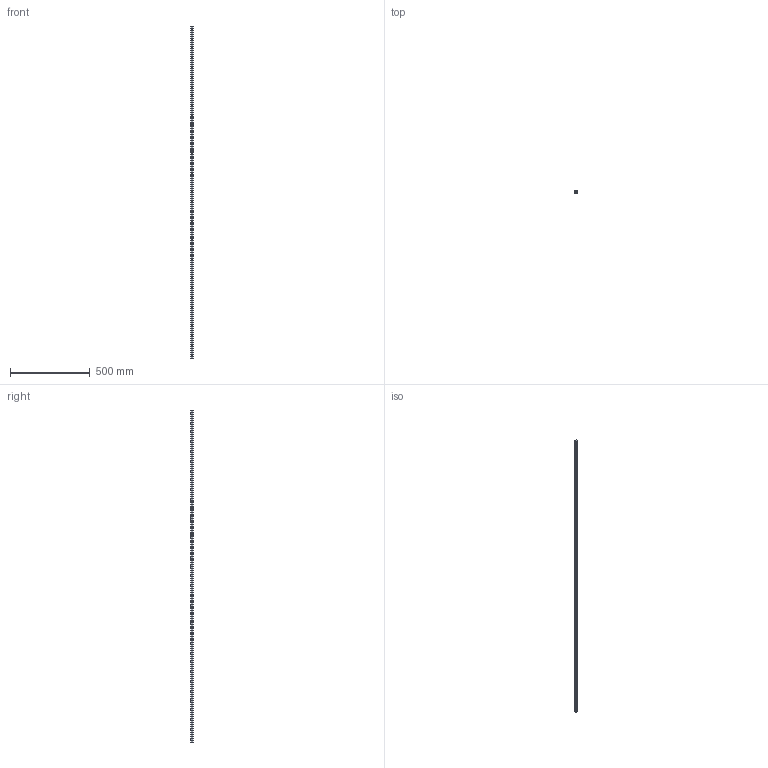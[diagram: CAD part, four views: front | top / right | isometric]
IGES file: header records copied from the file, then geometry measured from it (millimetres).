
Start section: SolidWorks IGES file using analytic representation for surfaces
Global section: file name: C:\Users\IanO\Desktop\L1016_v2\L1016.BL15_v2\L1016.BL15_v2_20190611_IGES\L1016.BL15-2080.igs; native system: SolidWorks 2017; preprocessor: SolidWorks 2017; author: IanO; date: 190612.123058; units: millimetre
Bounding box: 15 x 13 x 2080 mm (x, y, z)
Surface area: 127157.7 mm2 (no closed solid volume)
Topology: 0 solids, 0 shells, 201 faces, 5192 edges, 5192 vertices
Faces by surface type: revolution 144, bspline 57
